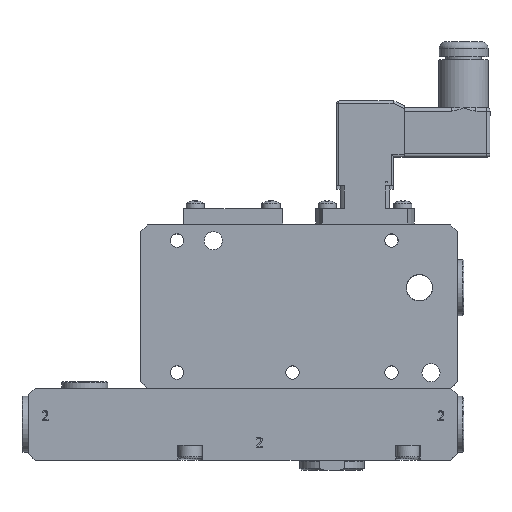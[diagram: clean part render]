
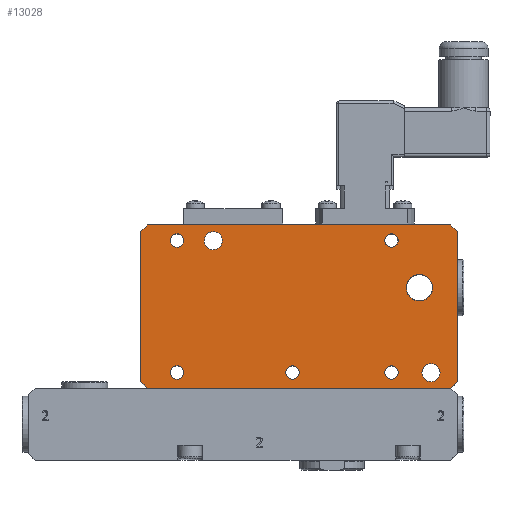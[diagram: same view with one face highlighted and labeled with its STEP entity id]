
A CAD part, top view. The second image highlights one B-rep face of the part: STEP entity #13028.
In plain terms, the highlighted planar face has unit normal (0, 0, 1).
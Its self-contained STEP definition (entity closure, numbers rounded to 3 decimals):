
#289=FACE_BOUND('',#2273,.T.);
#290=FACE_BOUND('',#2274,.T.);
#291=FACE_BOUND('',#2275,.T.);
#292=FACE_BOUND('',#2276,.T.);
#293=FACE_BOUND('',#2277,.T.);
#294=FACE_BOUND('',#2278,.T.);
#295=FACE_BOUND('',#2279,.T.);
#296=FACE_BOUND('',#2280,.T.);
#406=PLANE('',#14124);
#1519=FACE_OUTER_BOUND('',#2272,.T.);
#2272=EDGE_LOOP('',(#9169,#9170,#9171,#9172,#9173,#9174,#9175,#9176));
#2273=EDGE_LOOP('',(#9177));
#2274=EDGE_LOOP('',(#9178));
#2275=EDGE_LOOP('',(#9179));
#2276=EDGE_LOOP('',(#9180));
#2277=EDGE_LOOP('',(#9181));
#2278=EDGE_LOOP('',(#9182));
#2279=EDGE_LOOP('',(#9183));
#2280=EDGE_LOOP('',(#9184));
#3337=LINE('',#18745,#4474);
#3338=LINE('',#18747,#4475);
#3339=LINE('',#18749,#4476);
#3340=LINE('',#18751,#4477);
#3341=LINE('',#18753,#4478);
#3342=LINE('',#18755,#4479);
#3343=LINE('',#18757,#4480);
#3344=LINE('',#18758,#4481);
#4474=VECTOR('',#15316,10.);
#4475=VECTOR('',#15317,10.);
#4476=VECTOR('',#15318,10.);
#4477=VECTOR('',#15319,10.);
#4478=VECTOR('',#15320,10.);
#4479=VECTOR('',#15321,10.);
#4480=VECTOR('',#15322,10.);
#4481=VECTOR('',#15323,10.);
#5620=CIRCLE('',#14115,2.05);
#5621=CIRCLE('',#14117,2.05);
#5622=CIRCLE('',#14119,2.05);
#5623=CIRCLE('',#14121,2.05);
#5624=CIRCLE('',#14123,2.05);
#5625=CIRCLE('',#14125,2.75);
#5626=CIRCLE('',#14126,2.75);
#5627=CIRCLE('',#14127,4.);
#6044=VERTEX_POINT('',#18723);
#6045=VERTEX_POINT('',#18727);
#6046=VERTEX_POINT('',#18731);
#6047=VERTEX_POINT('',#18735);
#6048=VERTEX_POINT('',#18739);
#6049=VERTEX_POINT('',#18743);
#6050=VERTEX_POINT('',#18744);
#6051=VERTEX_POINT('',#18746);
#6052=VERTEX_POINT('',#18748);
#6053=VERTEX_POINT('',#18750);
#6054=VERTEX_POINT('',#18752);
#6055=VERTEX_POINT('',#18754);
#6056=VERTEX_POINT('',#18756);
#6057=VERTEX_POINT('',#18759);
#6058=VERTEX_POINT('',#18761);
#6059=VERTEX_POINT('',#18763);
#7268=EDGE_CURVE('',#6044,#6044,#5620,.T.);
#7270=EDGE_CURVE('',#6045,#6045,#5621,.T.);
#7272=EDGE_CURVE('',#6046,#6046,#5622,.T.);
#7274=EDGE_CURVE('',#6047,#6047,#5623,.T.);
#7276=EDGE_CURVE('',#6048,#6048,#5624,.T.);
#7278=EDGE_CURVE('',#6049,#6050,#3337,.T.);
#7279=EDGE_CURVE('',#6049,#6051,#3338,.T.);
#7280=EDGE_CURVE('',#6052,#6051,#3339,.T.);
#7281=EDGE_CURVE('',#6052,#6053,#3340,.T.);
#7282=EDGE_CURVE('',#6054,#6053,#3341,.T.);
#7283=EDGE_CURVE('',#6054,#6055,#3342,.T.);
#7284=EDGE_CURVE('',#6056,#6055,#3343,.T.);
#7285=EDGE_CURVE('',#6056,#6050,#3344,.T.);
#7286=EDGE_CURVE('',#6057,#6057,#5625,.T.);
#7287=EDGE_CURVE('',#6058,#6058,#5626,.T.);
#7288=EDGE_CURVE('',#6059,#6059,#5627,.T.);
#9169=ORIENTED_EDGE('',*,*,#7278,.F.);
#9170=ORIENTED_EDGE('',*,*,#7279,.T.);
#9171=ORIENTED_EDGE('',*,*,#7280,.F.);
#9172=ORIENTED_EDGE('',*,*,#7281,.T.);
#9173=ORIENTED_EDGE('',*,*,#7282,.F.);
#9174=ORIENTED_EDGE('',*,*,#7283,.T.);
#9175=ORIENTED_EDGE('',*,*,#7284,.F.);
#9176=ORIENTED_EDGE('',*,*,#7285,.T.);
#9177=ORIENTED_EDGE('',*,*,#7286,.T.);
#9178=ORIENTED_EDGE('',*,*,#7287,.T.);
#9179=ORIENTED_EDGE('',*,*,#7268,.T.);
#9180=ORIENTED_EDGE('',*,*,#7270,.T.);
#9181=ORIENTED_EDGE('',*,*,#7272,.T.);
#9182=ORIENTED_EDGE('',*,*,#7274,.T.);
#9183=ORIENTED_EDGE('',*,*,#7276,.T.);
#9184=ORIENTED_EDGE('',*,*,#7288,.T.);
#13028=ADVANCED_FACE('',(#1519,#289,#290,#291,#292,#293,#294,#295,#296),
#406,.T.);
#14115=AXIS2_PLACEMENT_3D('',#18724,#15291,#15292);
#14117=AXIS2_PLACEMENT_3D('',#18728,#15296,#15297);
#14119=AXIS2_PLACEMENT_3D('',#18732,#15301,#15302);
#14121=AXIS2_PLACEMENT_3D('',#18736,#15306,#15307);
#14123=AXIS2_PLACEMENT_3D('',#18740,#15311,#15312);
#14124=AXIS2_PLACEMENT_3D('',#18742,#15314,#15315);
#14125=AXIS2_PLACEMENT_3D('',#18760,#15324,#15325);
#14126=AXIS2_PLACEMENT_3D('',#18762,#15326,#15327);
#14127=AXIS2_PLACEMENT_3D('',#18764,#15328,#15329);
#15291=DIRECTION('center_axis',(0.,0.,
-1.));
#15292=DIRECTION('ref_axis',(1.,0.,0.));
#15296=DIRECTION('center_axis',(0.,0.,
-1.));
#15297=DIRECTION('ref_axis',(1.,0.,0.));
#15301=DIRECTION('center_axis',(0.,0.,
-1.));
#15302=DIRECTION('ref_axis',(1.,0.,0.));
#15306=DIRECTION('center_axis',(0.,0.,
-1.));
#15307=DIRECTION('ref_axis',(1.,0.,0.));
#15311=DIRECTION('center_axis',(0.,0.,
-1.));
#15312=DIRECTION('ref_axis',(1.,0.,0.));
#15314=DIRECTION('center_axis',(0.,0.,
1.));
#15315=DIRECTION('ref_axis',(1.,0.,0.));
#15316=DIRECTION('',(-0.707,-0.707,0.));
#15317=DIRECTION('',(0.,1.,0.));
#15318=DIRECTION('',(0.707,-0.707,0.));
#15319=DIRECTION('',(-1.,0.,0.));
#15320=DIRECTION('',(0.707,0.707,0.));
#15321=DIRECTION('',(0.,-1.,0.));
#15322=DIRECTION('',(-0.707,0.707,0.));
#15323=DIRECTION('',(1.,0.,0.));
#15324=DIRECTION('center_axis',(0.,0.,
-1.));
#15325=DIRECTION('ref_axis',(-1.,0.,0.));
#15326=DIRECTION('center_axis',(0.,0.,
-1.));
#15327=DIRECTION('ref_axis',(-1.,0.,0.));
#15328=DIRECTION('center_axis',(0.,0.,
-1.));
#15329=DIRECTION('ref_axis',(1.,0.,0.));
#18723=CARTESIAN_POINT('',(-8.288,42.299,18.089));
#18724=CARTESIAN_POINT('Origin',(-6.238,42.299,18.089));
#18727=CARTESIAN_POINT('',(26.712,2.299,18.089));
#18728=CARTESIAN_POINT('Origin',(28.762,2.299,18.089));
#18731=CARTESIAN_POINT('',(56.712,2.299,18.089));
#18732=CARTESIAN_POINT('Origin',(58.762,2.299,18.089));
#18735=CARTESIAN_POINT('',(-8.288,2.299,18.089));
#18736=CARTESIAN_POINT('Origin',(-6.238,2.299,18.089));
#18739=CARTESIAN_POINT('',(56.712,42.299,18.089));
#18740=CARTESIAN_POINT('Origin',(58.762,42.299,18.089));
#18742=CARTESIAN_POINT('Origin',(30.762,22.299,18.089));
#18743=CARTESIAN_POINT('',(78.762,-0.451,18.089));
#18744=CARTESIAN_POINT('',(76.762,-2.451,18.089));
#18745=CARTESIAN_POINT('',(71.949,-7.264,18.089));
#18746=CARTESIAN_POINT('',(78.762,45.049,18.089));
#18747=CARTESIAN_POINT('',(78.762,47.049,18.089));
#18748=CARTESIAN_POINT('',(76.762,47.049,18.089));
#18749=CARTESIAN_POINT('',(71.949,51.861,18.089));
#18750=CARTESIAN_POINT('',(-15.238,47.049,18.089));
#18751=CARTESIAN_POINT('',(-17.238,47.049,18.089));
#18752=CARTESIAN_POINT('',(-17.238,45.049,18.089));
#18753=CARTESIAN_POINT('',(-10.426,51.861,18.089));
#18754=CARTESIAN_POINT('',(-17.238,-0.451,18.089));
#18755=CARTESIAN_POINT('',(-17.238,-2.451,18.089));
#18756=CARTESIAN_POINT('',(-15.238,-2.451,18.089));
#18757=CARTESIAN_POINT('',(-10.426,-7.264,18.089));
#18758=CARTESIAN_POINT('',(78.762,-2.451,18.089));
#18759=CARTESIAN_POINT('',(2.012,42.299,18.089));
#18760=CARTESIAN_POINT('Origin',(4.762,42.299,18.089));
#18761=CARTESIAN_POINT('',(68.012,2.299,18.089));
#18762=CARTESIAN_POINT('Origin',(70.762,2.299,18.089));
#18763=CARTESIAN_POINT('',(63.262,28.049,18.089));
#18764=CARTESIAN_POINT('Origin',(67.262,28.049,18.089));
